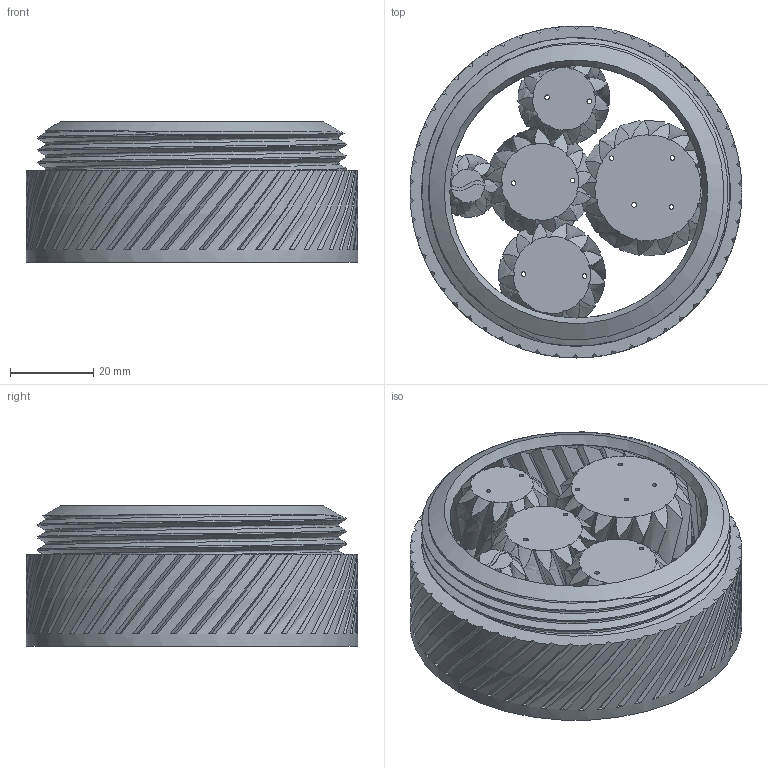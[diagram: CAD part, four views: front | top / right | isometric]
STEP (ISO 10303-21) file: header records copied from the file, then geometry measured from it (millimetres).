
FILE_DESCRIPTION(/* description */ ('STEP AP242','CAx-IF Rec.Pracs.---Representation and Presentation of Product Manufacturing Information (PMI)---4.0---2014-10-13','CAx-IF Rec.Pracs.---3D Tessellated Geometry---0.4---2014-09-14','2;1'),/* implementation_level */ '2;1');
FILE_NAME(/* name */ '64756d143074683142f1d584',/* time_stamp */ '2023-05-30T03:27:17Z',/* author */ (''),/* organization */ (''),/* preprocessor_version */ 'ST-DEVELOPER v19.4',/* originating_system */ ' ',/* authorisation */ ' ');
FILE_SCHEMA (('AP242_MANAGED_MODEL_BASED_3D_ENGINEERING_MIM_LF { 1 0 10303 442 1 1 4 }'));
Length unit declared in the file: metre
Products named in the file (6): id2; id5; id8; id11; id14; id17
Bounding box: 79.6 x 79.6 x 33.65 mm (x, y, z)
Volume: 100149.3 mm3; surface area: 48677.9 mm2
Topology: 6 solids, 6 shells, 911 faces, 2436 edges, 1541 vertices
Faces by surface type: bspline 627, cone 141, plane 74, cylinder 69
Full cylindrical faces by diameter (mm): 1.1 x10, 1.8 x10, 2.85 x4, 79.6 x1
Entity records: 116469 total; most frequent: CARTESIAN_POINT 100079, ORIENTED_EDGE 4752, EDGE_CURVE 2376, DIRECTION 1578, VERTEX_POINT 1528, B_SPLINE_CURVE_WITH_KNOTS 1458, EDGE_LOOP 976, FACE_BOUND 976
